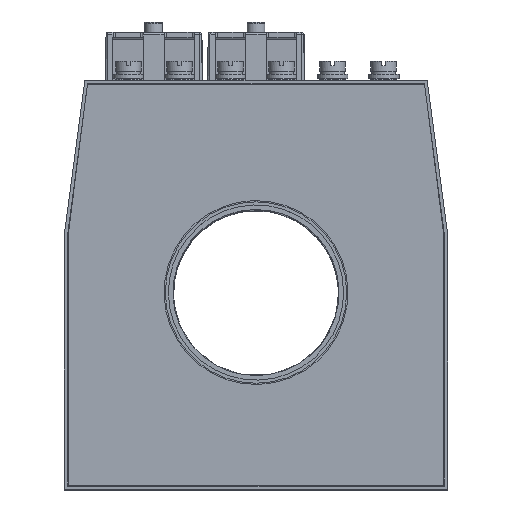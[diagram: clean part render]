
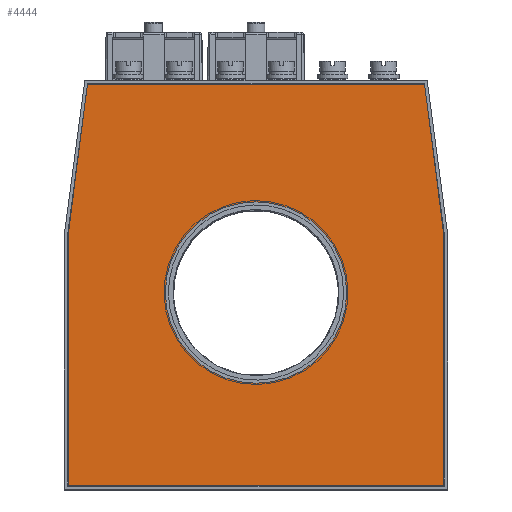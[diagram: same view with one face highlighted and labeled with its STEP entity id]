
A CAD part, top view. The second image highlights one B-rep face of the part: STEP entity #4444.
In plain terms, the highlighted planar face has unit normal (0, 0, 1).
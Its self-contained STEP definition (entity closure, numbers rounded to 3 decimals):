
#4444=ADVANCED_FACE('',(#7869,#7871),#7873,.T.);
#7869=FACE_BOUND('',#7870,.T.);
#7870=EDGE_LOOP('',(#9286,#9287,#9288,#9289,#9290,#9291));
#7871=FACE_BOUND('',#7872,.T.);
#7872=EDGE_LOOP('',(#9292));
#7873=PLANE('',#7874);
#7874=AXIS2_PLACEMENT_3D('',#7875,#7876,#7877);
#7875=CARTESIAN_POINT('',(0.,0.,5.));
#7876=DIRECTION('',(0.,0.,1.));
#7877=DIRECTION('',(1.,0.,0.));
#9286=ORIENTED_EDGE('',*,*,#10001,.T.);
#9287=ORIENTED_EDGE('',*,*,#10002,.T.);
#9288=ORIENTED_EDGE('',*,*,#10003,.T.);
#9289=ORIENTED_EDGE('',*,*,#10004,.T.);
#9290=ORIENTED_EDGE('',*,*,#10005,.T.);
#9291=ORIENTED_EDGE('',*,*,#10006,.T.);
#9292=ORIENTED_EDGE('',*,*,#10007,.T.);
#10001=EDGE_CURVE('',#11177,#11178,#11179,.T.);
#10002=EDGE_CURVE('',#11178,#11180,#11181,.T.);
#10003=EDGE_CURVE('',#11180,#11182,#11183,.T.);
#10004=EDGE_CURVE('',#11182,#11184,#11185,.T.);
#10005=EDGE_CURVE('',#11184,#11186,#11187,.T.);
#10006=EDGE_CURVE('',#11186,#11177,#11188,.T.);
#10007=EDGE_CURVE('',#11189,#11189,#11190,.F.);
#11177=VERTEX_POINT('',#14194);
#11178=VERTEX_POINT('',#14195);
#11179=LINE('',#14196,#14197);
#11180=VERTEX_POINT('',#14199);
#11181=LINE('',#14200,#14201);
#11182=VERTEX_POINT('',#14203);
#11183=LINE('',#14204,#14205);
#11184=VERTEX_POINT('',#14207);
#11185=LINE('',#14208,#14209);
#11186=VERTEX_POINT('',#14211);
#11187=LINE('',#14212,#14213);
#11188=LINE('',#14215,#14216);
#11189=VERTEX_POINT('',#14218);
#11190=CIRCLE('',#14219,35.5);
#14194=CARTESIAN_POINT('',(-73.5,19.815,5.));
#14195=CARTESIAN_POINT('',(-73.5,-78.5,5.));
#14196=CARTESIAN_POINT('',(-73.5,19.815,5.));
#14197=VECTOR('',#14198,1.);
#14198=DIRECTION('',(0.,-1.,0.));
#14199=CARTESIAN_POINT('',(73.5,-78.5,5.));
#14200=CARTESIAN_POINT('',(-73.5,-78.5,5.));
#14201=VECTOR('',#14202,1.);
#14202=DIRECTION('',(1.,0.,0.));
#14203=CARTESIAN_POINT('',(73.5,19.815,5.));
#14204=CARTESIAN_POINT('',(73.5,-78.5,5.));
#14205=VECTOR('',#14206,1.);
#14206=DIRECTION('',(0.,1.,0.));
#14207=CARTESIAN_POINT('',(66.,78.5,5.));
#14208=CARTESIAN_POINT('',(73.5,19.815,5.));
#14209=VECTOR('',#14210,1.);
#14210=DIRECTION('',(-0.127,0.992,0.));
#14211=CARTESIAN_POINT('',(-66.,78.5,5.));
#14212=CARTESIAN_POINT('',(66.,78.5,5.));
#14213=VECTOR('',#14214,1.);
#14214=DIRECTION('',(-1.,0.,0.));
#14215=CARTESIAN_POINT('',(-66.,78.5,5.));
#14216=VECTOR('',#14217,1.);
#14217=DIRECTION('',(-0.127,-0.992,0.));
#14218=CARTESIAN_POINT('',(35.5,-3.,5.));
#14219=AXIS2_PLACEMENT_3D('',#14220,#14221,#14222);
#14220=CARTESIAN_POINT('',(0.,-3.,5.));
#14221=DIRECTION('',(0.,0.,1.));
#14222=DIRECTION('',(1.,0.,0.));
